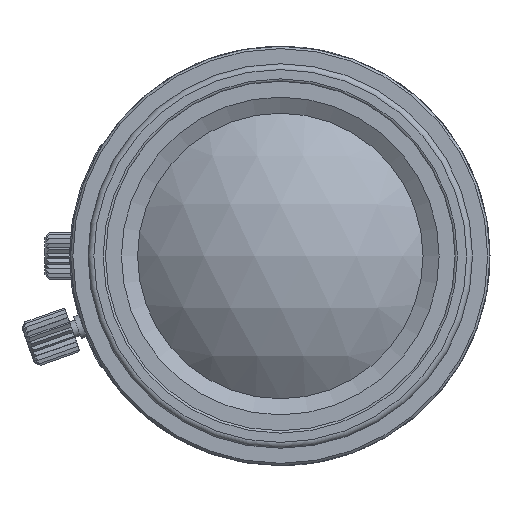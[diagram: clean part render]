
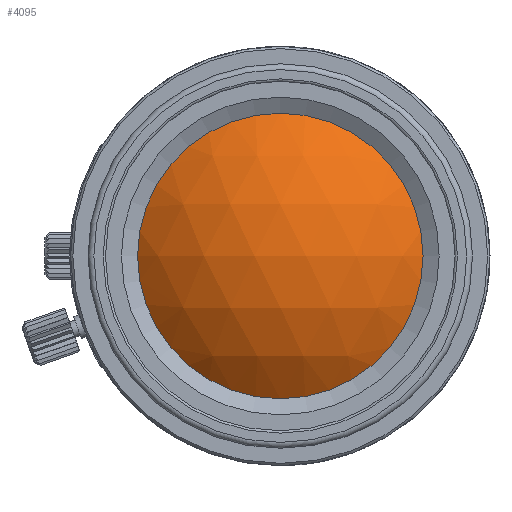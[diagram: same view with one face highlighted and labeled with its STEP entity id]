
A CAD part, left-side view. The second image highlights one B-rep face of the part: STEP entity #4095.
In plain terms, the highlighted spherical face has radius 18.448 mm.
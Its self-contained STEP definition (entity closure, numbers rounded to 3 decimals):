
#65=SPHERICAL_SURFACE('',#4376,18.448);
#933=ORIENTED_EDGE('',*,*,#2150,.F.);
#2150=EDGE_CURVE('',#2758,#2758,#3190,.T.);
#2758=VERTEX_POINT('',#6483);
#3190=CIRCLE('',#4377,12.25);
#3327=EDGE_LOOP('',(#933));
#3680=FACE_BOUND('',#3327,.T.);
#4095=ADVANCED_FACE('',(#3680),#65,.T.);
#4376=AXIS2_PLACEMENT_3D('',#6481,#4782,#4783);
#4377=AXIS2_PLACEMENT_3D('',#6482,#4784,#4785);
#4782=DIRECTION('',(0.,0.,-1.));
#4783=DIRECTION('',(0.,1.,0.));
#4784=DIRECTION('',(1.,0.,0.));
#4785=DIRECTION('',(0.,0.,-1.));
#6481=CARTESIAN_POINT('',(-52.99,0.,0.));
#6482=CARTESIAN_POINT('',(-66.784,0.,0.));
#6483=CARTESIAN_POINT('',(-66.784,0.,-12.25));
